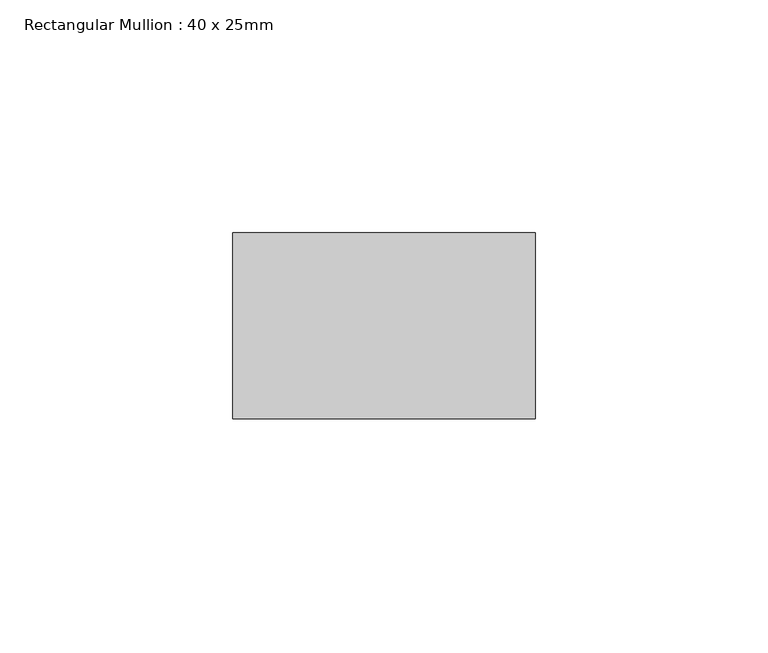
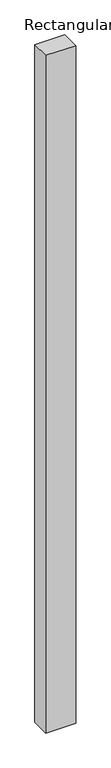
"""IFC4 building model written with IfcOpenShell, lengths in millimetres: member geometry, Rectangular Mullion : 40 x 25mm."""

from ifc_helpers import new_model, si_unit, frame, origin, place, context, project, spatial, polyline, outline, extrude, source, transform, mapped, element, save


def rectangular_mullion_40_x_25mm_ff4bdb68(model_context):
    return source(origin(), model_context, "Body", "SweptSolid", [
        extrude(outline(polyline([(40.0, -20.0), (40.0, -60.0), (-25.0, -60.0), (-25.0, -20.0), (40.0, -20.0)])), frame((0.0, 0.0, -1550.4192987), z_axis=(0.0, 0.0, 1.0), x_axis=(1.0, 0.0, 0.0)), (0.0, 0.0, 1.0), 1550.4192987),
    ])


if __name__ == "__main__":
    model = new_model("IFC4")
    model_context = context("Model", 3, world=origin())
    ifc_project = project(units=[si_unit("LENGTHUNIT", "METRE", prefix="MILLI")], contexts=[model_context])
    site = spatial("IfcSite", under=ifc_project)
    building = spatial("IfcBuilding", under=site)
    placement = place(None, origin())
    rectangular_mullion_40_x_25mm_shape = rectangular_mullion_40_x_25mm_ff4bdb68(model_context)
    element("IfcMember", 1, ObjectType="Rectangular Mullion : 40 x 25mm", at=placement, inside=building, context=model_context, shape_type="MappedRepresentation", body=[
        mapped(rectangular_mullion_40_x_25mm_shape, transform((0.0, 0.0, 0.0), x_axis=(1.0, 0.0, 0.0), y_axis=(0.0, 1.0, 0.0), z_axis=(0.0, 0.0, 1.0))),
    ])
    save(model, "model.ifc")
